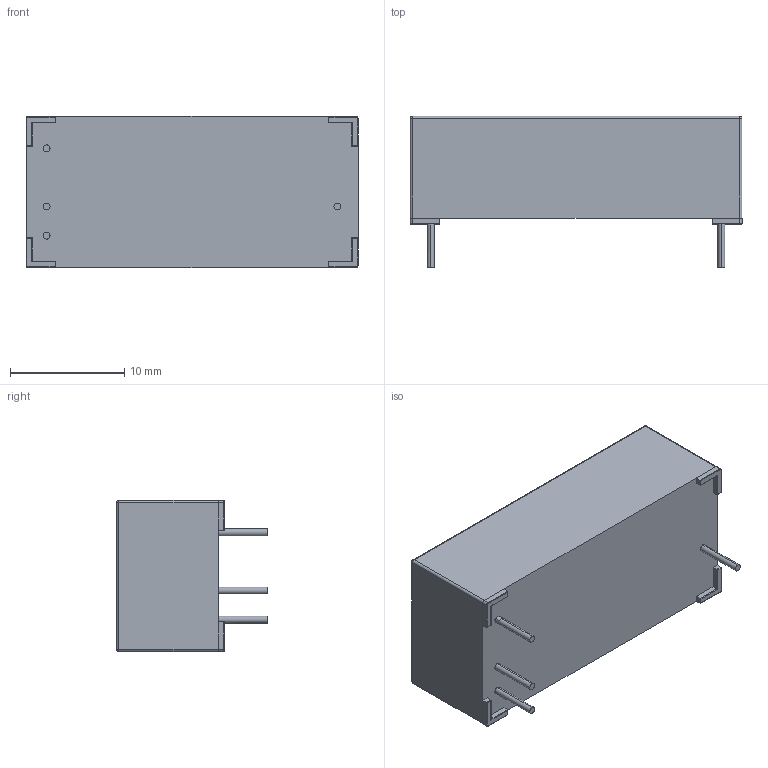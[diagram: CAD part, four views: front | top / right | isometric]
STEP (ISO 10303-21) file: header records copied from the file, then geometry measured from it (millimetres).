
FILE_DESCRIPTION (( 'STEP AP203' ), '1' );
FILE_NAME ('89-1-B.STEP', '2010-06-29T13:41:30', ( ' ' ), ( '' ), 'SwSTEP 2.0', 'SolidWorks 2009', '' );
FILE_SCHEMA (( 'CONFIG_CONTROL_DESIGN' ));
Length unit declared in the file: millimetre
Products named in the file (1): 89-1-B
Bounding box: 29 x 13.2 x 13.2 mm (x, y, z)
Volume: 3410.8 mm3; surface area: 1557.9 mm2
Topology: 1 solids, 1 shells, 749 faces, 1961 edges, 1286 vertices
Faces by surface type: plane 442, bspline 255, cylinder 44, sphere 4, torus 4
Entity records: 36270 total; most frequent: CARTESIAN_POINT 19556, ORIENTED_EDGE 3914, DIRECTION 2469, EDGE_CURVE 1957, VECTOR 1375, LINE 1375, VERTEX_POINT 1286, EDGE_LOOP 825
